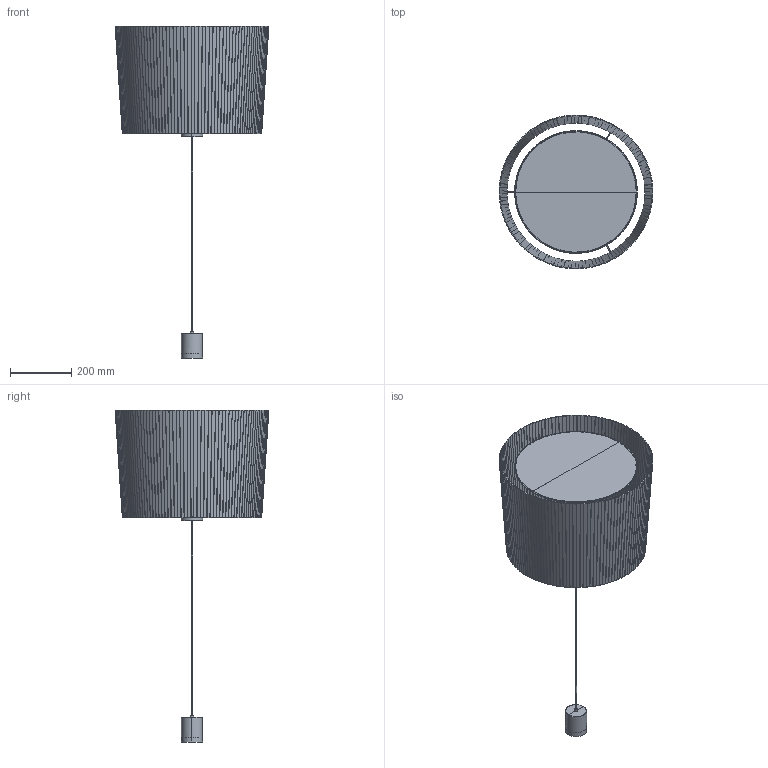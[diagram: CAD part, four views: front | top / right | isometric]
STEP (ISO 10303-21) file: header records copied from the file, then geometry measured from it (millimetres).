
FILE_DESCRIPTION(/* description */ (''),/* implementation_level */ '2;1');
FILE_NAME(/* name */ 'C:\Users\Franco Sartori E\Documents\FARO\DUPLICADO\Modelos\01_Digitalizados\2021\0_MAMBO_SAMBA_CONGA\03_Publicación\64315-44.stp',/* time_stamp */ '2021-02-11T10:45:57+01:00',/* author */ ('Franco Sartori E'),/* organization */ (''),/* preprocessor_version */ 'ST-DEVELOPER v18.1',/* originating_system */ 'AutoCAD Mechanical',/* authorisation */ '');
FILE_SCHEMA (('AUTOMOTIVE_DESIGN { 1 0 10303 214 3 1 1 }'));
Length unit declared in the file: millimetre
Products named in the file (3): Product; 64315 - STR-861337-Export; SAMBA - SH-861338-Export
Assembly tree (2 placements, depth 2):
  Product
    64315 - STR-861337-Export
    SAMBA - SH-861338-Export
Bounding box: 500.91 x 500.89 x 1081.37 mm (x, y, z)
Volume: 1944683.1 mm3; surface area: 1723639.5 mm2
Topology: 142 solids, 145 shells, 1200 faces, 2684 edges, 1762 vertices
Faces by surface type: plane 1120, cylinder 60, torus 20
Entity records: 36349 total; most frequent: CARTESIAN_POINT 9625, ORIENTED_EDGE 5356, DIRECTION 5108, EDGE_CURVE 2684, LINE 2510, VECTOR 2510, VERTEX_POINT 1762, AXIS2_PLACEMENT_3D 1299
